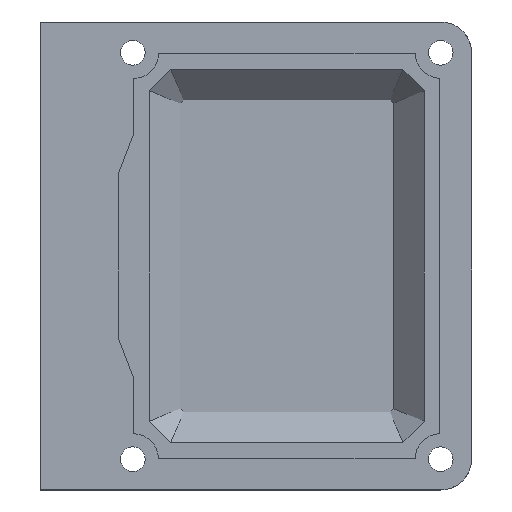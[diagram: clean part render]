
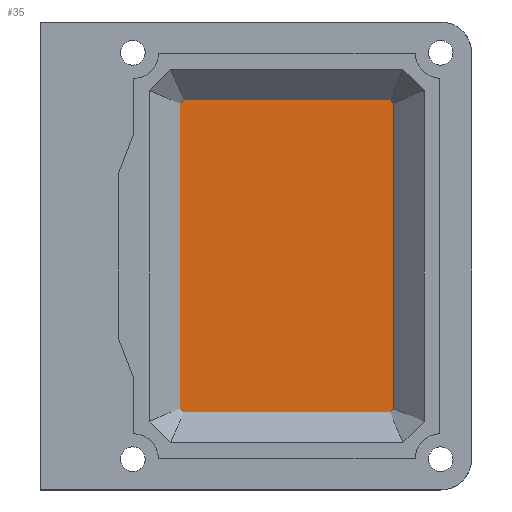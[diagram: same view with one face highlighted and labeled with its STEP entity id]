
A CAD part, top view. The second image highlights one B-rep face of the part: STEP entity #35.
In plain terms, the highlighted planar face has unit normal (0, 0, 1).
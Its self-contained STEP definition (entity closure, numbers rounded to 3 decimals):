
#35 = ADVANCED_FACE('',(#36),#50,.T.);
#36 = FACE_BOUND('',#37,.T.);
#37 = EDGE_LOOP('',(#38,#73,#101,#129,#157,#185,#213,#241));
#38 = ORIENTED_EDGE('',*,*,#39,.F.);
#39 = EDGE_CURVE('',#40,#42,#44,.T.);
#40 = VERTEX_POINT('',#41);
#41 = CARTESIAN_POINT('',(51.714,25.36,-48.));
#42 = VERTEX_POINT('',#43);
#43 = CARTESIAN_POINT('',(85.286,25.36,-48.));
#44 = SURFACE_CURVE('',#45,(#49,#61),.PCURVE_S1.);
#45 = LINE('',#46,#47);
#46 = CARTESIAN_POINT('',(49.647,25.36,-48.));
#47 = VECTOR('',#48,1.);
#48 = DIRECTION('',(1.,0.,0.));
#49 = PCURVE('',#50,#55);
#50 = PLANE('',#51);
#51 = AXIS2_PLACEMENT_3D('',#52,#53,#54);
#52 = CARTESIAN_POINT('',(68.5,0.,-48.));
#53 = DIRECTION('',(0.,0.,1.));
#54 = DIRECTION('',(1.,0.,0.));
#55 = DEFINITIONAL_REPRESENTATION('',(#56),#60);
#56 = LINE('',#57,#58);
#57 = CARTESIAN_POINT('',(-18.853,25.36));
#58 = VECTOR('',#59,1.);
#59 = DIRECTION('',(1.,0.));
#60 = ( GEOMETRIC_REPRESENTATION_CONTEXT(2) 
PARAMETRIC_REPRESENTATION_CONTEXT() REPRESENTATION_CONTEXT('2D SPACE',''
  ) );
#61 = PCURVE('',#62,#67);
#62 = PLANE('',#63);
#63 = AXIS2_PLACEMENT_3D('',#64,#65,#66);
#64 = CARTESIAN_POINT('',(49.647,27.855,-45.505));
#65 = DIRECTION('',(0.,0.707,-0.707));
#66 = DIRECTION('',(-1.,-0.,-0.));
#67 = DEFINITIONAL_REPRESENTATION('',(#68),#72);
#68 = LINE('',#69,#70);
#69 = CARTESIAN_POINT('',(-0.,-3.528));
#70 = VECTOR('',#71,1.);
#71 = DIRECTION('',(-1.,0.));
#72 = ( GEOMETRIC_REPRESENTATION_CONTEXT(2) 
PARAMETRIC_REPRESENTATION_CONTEXT() REPRESENTATION_CONTEXT('2D SPACE',''
  ) );
#73 = ORIENTED_EDGE('',*,*,#74,.F.);
#74 = EDGE_CURVE('',#75,#40,#77,.T.);
#75 = VERTEX_POINT('',#76);
#76 = CARTESIAN_POINT('',(51.14,24.786,-48.));
#77 = SURFACE_CURVE('',#78,(#82,#89),.PCURVE_S1.);
#78 = LINE('',#79,#80);
#79 = CARTESIAN_POINT('',(49.678,23.324,-48.));
#80 = VECTOR('',#81,1.);
#81 = DIRECTION('',(0.707,0.707,0.));
#82 = PCURVE('',#50,#83);
#83 = DEFINITIONAL_REPRESENTATION('',(#84),#88);
#84 = LINE('',#85,#86);
#85 = CARTESIAN_POINT('',(-18.822,23.324));
#86 = VECTOR('',#87,1.);
#87 = DIRECTION('',(0.707,0.707));
#88 = ( GEOMETRIC_REPRESENTATION_CONTEXT(2) 
PARAMETRIC_REPRESENTATION_CONTEXT() REPRESENTATION_CONTEXT('2D SPACE',''
  ) );
#89 = PCURVE('',#90,#95);
#90 = PLANE('',#91);
#91 = AXIS2_PLACEMENT_3D('',#92,#93,#94);
#92 = CARTESIAN_POINT('',(47.914,25.088,-45.505));
#93 = DIRECTION('',(-0.5,0.5,-0.707));
#94 = DIRECTION('',(-0.707,-0.707,-0.));
#95 = DEFINITIONAL_REPRESENTATION('',(#96),#100);
#96 = LINE('',#97,#98);
#97 = CARTESIAN_POINT('',(0.,-3.528));
#98 = VECTOR('',#99,1.);
#99 = DIRECTION('',(-1.,0.));
#100 = ( GEOMETRIC_REPRESENTATION_CONTEXT(2) 
PARAMETRIC_REPRESENTATION_CONTEXT() REPRESENTATION_CONTEXT('2D SPACE',''
  ) );
#101 = ORIENTED_EDGE('',*,*,#102,.F.);
#102 = EDGE_CURVE('',#103,#75,#105,.T.);
#103 = VERTEX_POINT('',#104);
#104 = CARTESIAN_POINT('',(51.14,-24.786,-48.));
#105 = SURFACE_CURVE('',#106,(#110,#117),.PCURVE_S1.);
#106 = LINE('',#107,#108);
#107 = CARTESIAN_POINT('',(51.14,-26.853,-48.));
#108 = VECTOR('',#109,1.);
#109 = DIRECTION('',(0.,1.,0.));
#110 = PCURVE('',#50,#111);
#111 = DEFINITIONAL_REPRESENTATION('',(#112),#116);
#112 = LINE('',#113,#114);
#113 = CARTESIAN_POINT('',(-17.36,-26.853));
#114 = VECTOR('',#115,1.);
#115 = DIRECTION('',(0.,1.));
#116 = ( GEOMETRIC_REPRESENTATION_CONTEXT(2) 
PARAMETRIC_REPRESENTATION_CONTEXT() REPRESENTATION_CONTEXT('2D SPACE',''
  ) );
#117 = PCURVE('',#118,#123);
#118 = PLANE('',#119);
#119 = AXIS2_PLACEMENT_3D('',#120,#121,#122);
#120 = CARTESIAN_POINT('',(48.645,-26.853,-45.505));
#121 = DIRECTION('',(-0.707,0.,-0.707));
#122 = DIRECTION('',(-0.,-1.,-0.));
#123 = DEFINITIONAL_REPRESENTATION('',(#124),#128);
#124 = LINE('',#125,#126);
#125 = CARTESIAN_POINT('',(-0.,-3.528));
#126 = VECTOR('',#127,1.);
#127 = DIRECTION('',(-1.,0.));
#128 = ( GEOMETRIC_REPRESENTATION_CONTEXT(2) 
PARAMETRIC_REPRESENTATION_CONTEXT() REPRESENTATION_CONTEXT('2D SPACE',''
  ) );
#129 = ORIENTED_EDGE('',*,*,#130,.F.);
#130 = EDGE_CURVE('',#131,#103,#133,.T.);
#131 = VERTEX_POINT('',#132);
#132 = CARTESIAN_POINT('',(51.714,-25.36,-48.));
#133 = SURFACE_CURVE('',#134,(#138,#145),.PCURVE_S1.);
#134 = LINE('',#135,#136);
#135 = CARTESIAN_POINT('',(53.176,-26.822,-48.));
#136 = VECTOR('',#137,1.);
#137 = DIRECTION('',(-0.707,0.707,0.));
#138 = PCURVE('',#50,#139);
#139 = DEFINITIONAL_REPRESENTATION('',(#140),#144);
#140 = LINE('',#141,#142);
#141 = CARTESIAN_POINT('',(-15.324,-26.822));
#142 = VECTOR('',#143,1.);
#143 = DIRECTION('',(-0.707,0.707));
#144 = ( GEOMETRIC_REPRESENTATION_CONTEXT(2) 
PARAMETRIC_REPRESENTATION_CONTEXT() REPRESENTATION_CONTEXT('2D SPACE',''
  ) );
#145 = PCURVE('',#146,#151);
#146 = PLANE('',#147);
#147 = AXIS2_PLACEMENT_3D('',#148,#149,#150);
#148 = CARTESIAN_POINT('',(51.412,-28.586,-45.505));
#149 = DIRECTION('',(-0.5,-0.5,-0.707));
#150 = DIRECTION('',(0.707,-0.707,0.)
  );
#151 = DEFINITIONAL_REPRESENTATION('',(#152),#156);
#152 = LINE('',#153,#154);
#153 = CARTESIAN_POINT('',(0.,-3.528));
#154 = VECTOR('',#155,1.);
#155 = DIRECTION('',(-1.,0.));
#156 = ( GEOMETRIC_REPRESENTATION_CONTEXT(2) 
PARAMETRIC_REPRESENTATION_CONTEXT() REPRESENTATION_CONTEXT('2D SPACE',''
  ) );
#157 = ORIENTED_EDGE('',*,*,#158,.F.);
#158 = EDGE_CURVE('',#159,#131,#161,.T.);
#159 = VERTEX_POINT('',#160);
#160 = CARTESIAN_POINT('',(85.286,-25.36,-48.));
#161 = SURFACE_CURVE('',#162,(#166,#173),.PCURVE_S1.);
#162 = LINE('',#163,#164);
#163 = CARTESIAN_POINT('',(87.353,-25.36,-48.));
#164 = VECTOR('',#165,1.);
#165 = DIRECTION('',(-1.,0.,0.));
#166 = PCURVE('',#50,#167);
#167 = DEFINITIONAL_REPRESENTATION('',(#168),#172);
#168 = LINE('',#169,#170);
#169 = CARTESIAN_POINT('',(18.853,-25.36));
#170 = VECTOR('',#171,1.);
#171 = DIRECTION('',(-1.,0.));
#172 = ( GEOMETRIC_REPRESENTATION_CONTEXT(2) 
PARAMETRIC_REPRESENTATION_CONTEXT() REPRESENTATION_CONTEXT('2D SPACE',''
  ) );
#173 = PCURVE('',#174,#179);
#174 = PLANE('',#175);
#175 = AXIS2_PLACEMENT_3D('',#176,#177,#178);
#176 = CARTESIAN_POINT('',(87.353,-27.855,-45.505));
#177 = DIRECTION('',(0.,-0.707,-0.707));
#178 = DIRECTION('',(1.,-0.,-0.));
#179 = DEFINITIONAL_REPRESENTATION('',(#180),#184);
#180 = LINE('',#181,#182);
#181 = CARTESIAN_POINT('',(-0.,-3.528));
#182 = VECTOR('',#183,1.);
#183 = DIRECTION('',(-1.,0.));
#184 = ( GEOMETRIC_REPRESENTATION_CONTEXT(2) 
PARAMETRIC_REPRESENTATION_CONTEXT() REPRESENTATION_CONTEXT('2D SPACE',''
  ) );
#185 = ORIENTED_EDGE('',*,*,#186,.F.);
#186 = EDGE_CURVE('',#187,#159,#189,.T.);
#187 = VERTEX_POINT('',#188);
#188 = CARTESIAN_POINT('',(85.86,-24.786,-48.));
#189 = SURFACE_CURVE('',#190,(#194,#201),.PCURVE_S1.);
#190 = LINE('',#191,#192);
#191 = CARTESIAN_POINT('',(87.322,-23.324,-48.));
#192 = VECTOR('',#193,1.);
#193 = DIRECTION('',(-0.707,-0.707,0.));
#194 = PCURVE('',#50,#195);
#195 = DEFINITIONAL_REPRESENTATION('',(#196),#200);
#196 = LINE('',#197,#198);
#197 = CARTESIAN_POINT('',(18.822,-23.324));
#198 = VECTOR('',#199,1.);
#199 = DIRECTION('',(-0.707,-0.707));
#200 = ( GEOMETRIC_REPRESENTATION_CONTEXT(2) 
PARAMETRIC_REPRESENTATION_CONTEXT() REPRESENTATION_CONTEXT('2D SPACE',''
  ) );
#201 = PCURVE('',#202,#207);
#202 = PLANE('',#203);
#203 = AXIS2_PLACEMENT_3D('',#204,#205,#206);
#204 = CARTESIAN_POINT('',(89.086,-25.088,-45.505));
#205 = DIRECTION('',(0.5,-0.5,-0.707));
#206 = DIRECTION('',(0.707,0.707,0.)
  );
#207 = DEFINITIONAL_REPRESENTATION('',(#208),#212);
#208 = LINE('',#209,#210);
#209 = CARTESIAN_POINT('',(0.,-3.528));
#210 = VECTOR('',#211,1.);
#211 = DIRECTION('',(-1.,0.));
#212 = ( GEOMETRIC_REPRESENTATION_CONTEXT(2) 
PARAMETRIC_REPRESENTATION_CONTEXT() REPRESENTATION_CONTEXT('2D SPACE',''
  ) );
#213 = ORIENTED_EDGE('',*,*,#214,.F.);
#214 = EDGE_CURVE('',#215,#187,#217,.T.);
#215 = VERTEX_POINT('',#216);
#216 = CARTESIAN_POINT('',(85.86,24.786,-48.));
#217 = SURFACE_CURVE('',#218,(#222,#229),.PCURVE_S1.);
#218 = LINE('',#219,#220);
#219 = CARTESIAN_POINT('',(85.86,26.853,-48.));
#220 = VECTOR('',#221,1.);
#221 = DIRECTION('',(0.,-1.,0.));
#222 = PCURVE('',#50,#223);
#223 = DEFINITIONAL_REPRESENTATION('',(#224),#228);
#224 = LINE('',#225,#226);
#225 = CARTESIAN_POINT('',(17.36,26.853));
#226 = VECTOR('',#227,1.);
#227 = DIRECTION('',(0.,-1.));
#228 = ( GEOMETRIC_REPRESENTATION_CONTEXT(2) 
PARAMETRIC_REPRESENTATION_CONTEXT() REPRESENTATION_CONTEXT('2D SPACE',''
  ) );
#229 = PCURVE('',#230,#235);
#230 = PLANE('',#231);
#231 = AXIS2_PLACEMENT_3D('',#232,#233,#234);
#232 = CARTESIAN_POINT('',(88.355,26.853,-45.505));
#233 = DIRECTION('',(0.707,0.,-0.707));
#234 = DIRECTION('',(-0.,1.,-0.));
#235 = DEFINITIONAL_REPRESENTATION('',(#236),#240);
#236 = LINE('',#237,#238);
#237 = CARTESIAN_POINT('',(-0.,-3.528));
#238 = VECTOR('',#239,1.);
#239 = DIRECTION('',(-1.,0.));
#240 = ( GEOMETRIC_REPRESENTATION_CONTEXT(2) 
PARAMETRIC_REPRESENTATION_CONTEXT() REPRESENTATION_CONTEXT('2D SPACE',''
  ) );
#241 = ORIENTED_EDGE('',*,*,#242,.F.);
#242 = EDGE_CURVE('',#42,#215,#243,.T.);
#243 = SURFACE_CURVE('',#244,(#248,#255),.PCURVE_S1.);
#244 = LINE('',#245,#246);
#245 = CARTESIAN_POINT('',(83.824,26.822,-48.));
#246 = VECTOR('',#247,1.);
#247 = DIRECTION('',(0.707,-0.707,0.));
#248 = PCURVE('',#50,#249);
#249 = DEFINITIONAL_REPRESENTATION('',(#250),#254);
#250 = LINE('',#251,#252);
#251 = CARTESIAN_POINT('',(15.324,26.822));
#252 = VECTOR('',#253,1.);
#253 = DIRECTION('',(0.707,-0.707));
#254 = ( GEOMETRIC_REPRESENTATION_CONTEXT(2) 
PARAMETRIC_REPRESENTATION_CONTEXT() REPRESENTATION_CONTEXT('2D SPACE',''
  ) );
#255 = PCURVE('',#256,#261);
#256 = PLANE('',#257);
#257 = AXIS2_PLACEMENT_3D('',#258,#259,#260);
#258 = CARTESIAN_POINT('',(85.588,28.586,-45.505));
#259 = DIRECTION('',(0.5,0.5,-0.707));
#260 = DIRECTION('',(-0.707,0.707,0.)
  );
#261 = DEFINITIONAL_REPRESENTATION('',(#262),#266);
#262 = LINE('',#263,#264);
#263 = CARTESIAN_POINT('',(0.,-3.528));
#264 = VECTOR('',#265,1.);
#265 = DIRECTION('',(-1.,0.));
#266 = ( GEOMETRIC_REPRESENTATION_CONTEXT(2) 
PARAMETRIC_REPRESENTATION_CONTEXT() REPRESENTATION_CONTEXT('2D SPACE',''
  ) );
